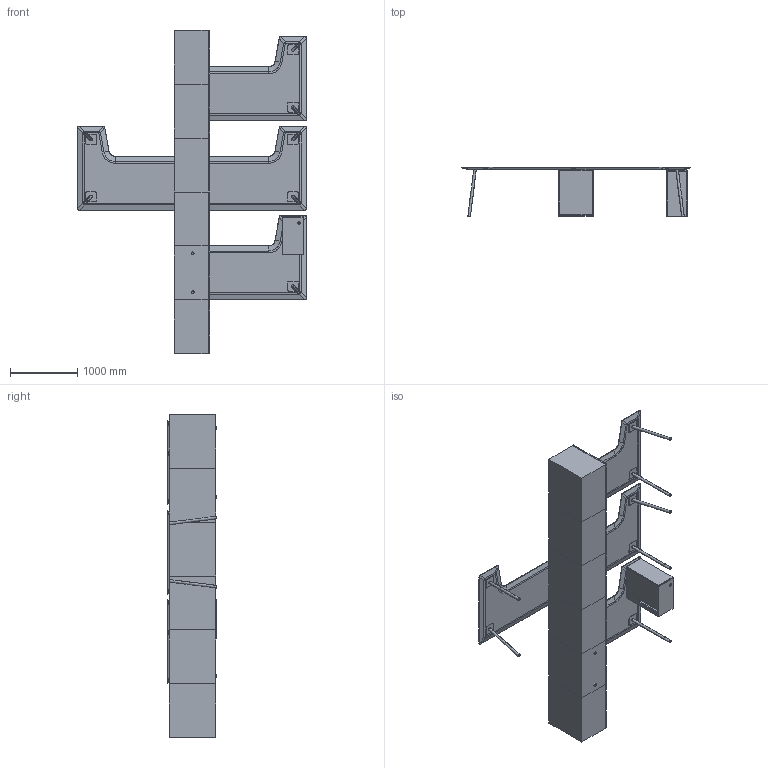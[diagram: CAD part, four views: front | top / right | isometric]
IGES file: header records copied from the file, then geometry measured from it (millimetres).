
Start section: SolidWorks IGES file using NURBS representation for surfaces
Global section: file name: W:\01-VICCARBE\PRODUCTOS\48-MAARTEN MESA\04-MODELADOS (PLANOS)\2-WEB\Piezas\IGS\VICCARBE_Maarten_180x80_return.IGS; native system: SolidWorks 2013; preprocessor: SolidWorks 2013; author: Usuario; date: 140904.103244; units: millimetre
Bounding box: 3399 x 734 x 4800 mm (x, y, z)
Surface area: 54894691 mm2 (no closed solid volume)
Topology: 0 solids, 0 shells, 766 faces, 3520 edges, 3480 vertices
Faces by surface type: bspline 766
